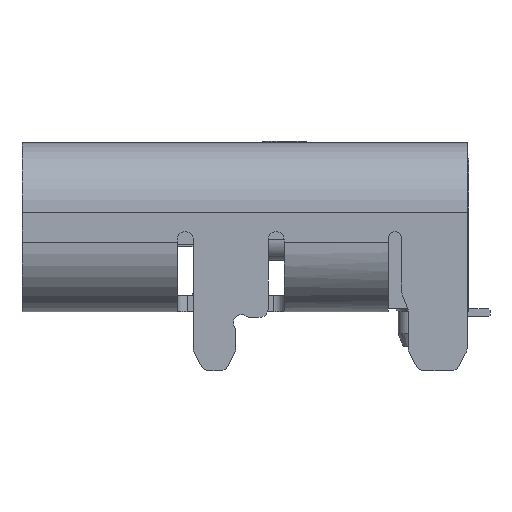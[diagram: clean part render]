
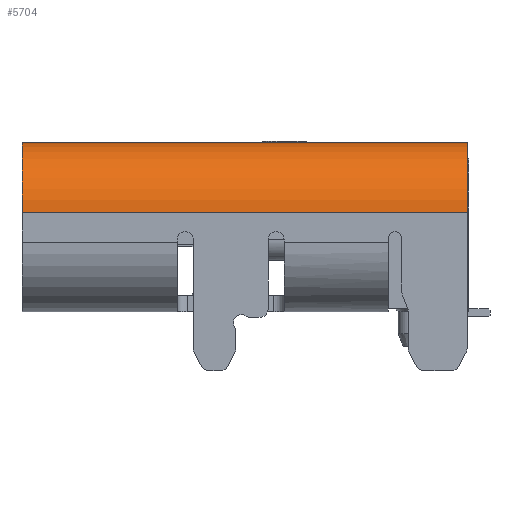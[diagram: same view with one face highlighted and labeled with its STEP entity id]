
A CAD part, left-side view. The second image highlights one B-rep face of the part: STEP entity #5704.
In plain terms, the highlighted cylindrical face has radius 1.3 mm (diameter 2.6 mm), a partial arc.
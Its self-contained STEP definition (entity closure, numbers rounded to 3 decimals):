
#302 = LINE ( 'NONE', #22846, #24448 ) ;
#2186 = CARTESIAN_POINT ( 'NONE',  ( -3.17, -7.32, 0. ) ) ;
#2356 = CARTESIAN_POINT ( 'NONE',  ( -3.17, -7.32, -1.3 ) ) ;
#2633 = EDGE_CURVE ( 'NONE', #6091, #26488, #302, .T. ) ;
#2726 = CARTESIAN_POINT ( 'NONE',  ( -4.47, 1., -1.3 ) ) ;
#2840 = EDGE_LOOP ( 'NONE', ( #7896, #15334, #15623, #14807 ) ) ;
#5130 = VERTEX_POINT ( 'NONE', #15672 ) ;
#5456 = DIRECTION ( 'NONE',  ( -1., 0., 0. ) ) ;
#5704 = ADVANCED_FACE ( 'NONE', ( #13102 ), #8965, .T. ) ;
#6091 = VERTEX_POINT ( 'NONE', #2726 ) ;
#6694 = DIRECTION ( 'NONE',  ( 0., -1., 0. ) ) ;
#7896 = ORIENTED_EDGE ( 'NONE', *, *, #23504, .F. ) ;
#8468 = CARTESIAN_POINT ( 'NONE',  ( -3.17, -7.32, -1.3 ) ) ;
#8748 = CIRCLE ( 'NONE', #25214, 1.3 ) ;
#8965 = CYLINDRICAL_SURFACE ( 'NONE', #21774, 1.3 ) ;
#9847 = CARTESIAN_POINT ( 'NONE',  ( -4.47, -7.32, -1.3 ) ) ;
#11791 = CARTESIAN_POINT ( 'NONE',  ( -3.17, 1., -1.3 ) ) ;
#13102 = FACE_OUTER_BOUND ( 'NONE', #2840, .T. ) ;
#14009 = DIRECTION ( 'NONE',  ( 0., -1., 0. ) ) ;
#14333 = CIRCLE ( 'NONE', #26537, 1.3 ) ;
#14807 = ORIENTED_EDGE ( 'NONE', *, *, #2633, .T. ) ;
#15334 = ORIENTED_EDGE ( 'NONE', *, *, #26759, .T. ) ;
#15623 = ORIENTED_EDGE ( 'NONE', *, *, #21321, .T. ) ;
#15672 = CARTESIAN_POINT ( 'NONE',  ( -3.17, -7.32, 0. ) ) ;
#17975 = DIRECTION ( 'NONE',  ( 0., -1., 0. ) ) ;
#18225 = DIRECTION ( 'NONE',  ( 0., 1., 0. ) ) ;
#20704 = VECTOR ( 'NONE', #18225, 1000. ) ;
#21321 = EDGE_CURVE ( 'NONE', #25278, #6091, #14333, .T. ) ;
#21774 = AXIS2_PLACEMENT_3D ( 'NONE', #2356, #24433, #28698 ) ;
#22024 = DIRECTION ( 'NONE',  ( -1., 0., 0. ) ) ;
#22529 = CARTESIAN_POINT ( 'NONE',  ( -3.17, 1., 0. ) ) ;
#22846 = CARTESIAN_POINT ( 'NONE',  ( -4.47, -7.32, -1.3 ) ) ;
#23504 = EDGE_CURVE ( 'NONE', #5130, #26488, #8748, .T. ) ;
#24433 = DIRECTION ( 'NONE',  ( 0., 1., 0. ) ) ;
#24448 = VECTOR ( 'NONE', #17975, 1000. ) ;
#25214 = AXIS2_PLACEMENT_3D ( 'NONE', #8468, #6694, #22024 ) ;
#25278 = VERTEX_POINT ( 'NONE', #22529 ) ;
#26488 = VERTEX_POINT ( 'NONE', #9847 ) ;
#26537 = AXIS2_PLACEMENT_3D ( 'NONE', #11791, #14009, #5456 ) ;
#26759 = EDGE_CURVE ( 'NONE', #5130, #25278, #29098, .T. ) ;
#28698 = DIRECTION ( 'NONE',  ( -1., 0., 0. ) ) ;
#29098 = LINE ( 'NONE', #2186, #20704 ) ;
